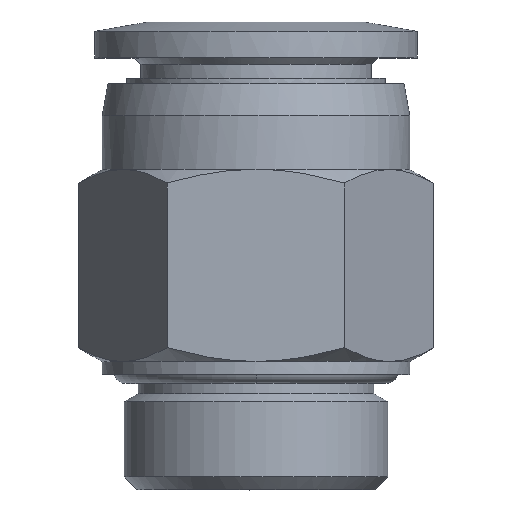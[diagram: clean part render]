
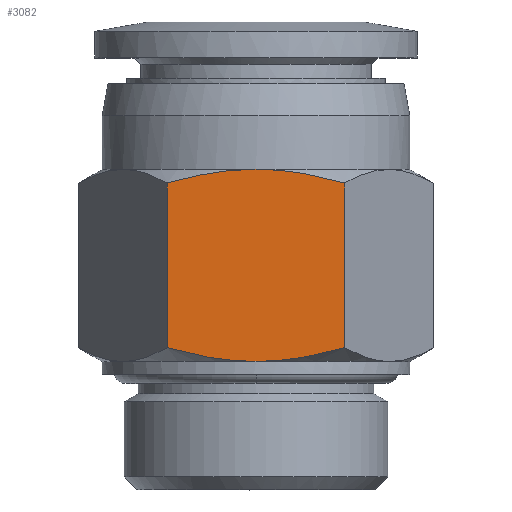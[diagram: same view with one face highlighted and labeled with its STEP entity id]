
A CAD part, top view. The second image highlights one B-rep face of the part: STEP entity #3082.
In plain terms, the highlighted planar face has unit normal (0, 0, 1).
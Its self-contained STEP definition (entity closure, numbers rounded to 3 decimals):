
#6 = CARTESIAN_POINT ( 'NONE',  ( 0., 25., 12. ) ) ;
#66 = VERTEX_POINT ( 'NONE', #169 ) ;
#79 = CARTESIAN_POINT ( 'NONE',  ( 4.514, 10.472, 12. ) ) ;
#161 = CARTESIAN_POINT ( 'NONE',  ( -6.928, 23.928, 12. ) ) ;
#169 = CARTESIAN_POINT ( 'NONE',  ( 6.928, 23.928, 12. ) ) ;
#182 = CARTESIAN_POINT ( 'NONE',  ( 6.928, 23.928, 12. ) ) ;
#183 = B_SPLINE_CURVE_WITH_KNOTS ( 'NONE', 3,
 ( #2916, #667, #2881, #1656, #2672, #423 ),
 .UNSPECIFIED., .F., .F.,
 ( 4, 2, 4 ),
 ( 0., 0.5, 1. ),
 .UNSPECIFIED. ) ;
#236 = DIRECTION ( 'NONE',  ( 0., 0., 1. ) ) ;
#244 = VERTEX_POINT ( 'NONE', #1111 ) ;
#307 = ORIENTED_EDGE ( 'NONE', *, *, #2454, .F. ) ;
#329 = EDGE_CURVE ( 'NONE', #66, #244, #3074, .T. ) ;
#394 = CARTESIAN_POINT ( 'NONE',  ( 5.668, 24.292, 12. ) ) ;
#423 = CARTESIAN_POINT ( 'NONE',  ( -6.928, 23.928, 12. ) ) ;
#425 = CARTESIAN_POINT ( 'NONE',  ( 1.092, 25., 12. ) ) ;
#480 = PLANE ( 'NONE',  #2341 ) ;
#601 = CARTESIAN_POINT ( 'NONE',  ( -6.928, 11.072, 12. ) ) ;
#637 = ORIENTED_EDGE ( 'NONE', *, *, #861, .T. ) ;
#661 = CARTESIAN_POINT ( 'NONE',  ( 0., 10., 12. ) ) ;
#667 = CARTESIAN_POINT ( 'NONE',  ( -1.092, 25., 12. ) ) ;
#693 = B_SPLINE_CURVE_WITH_KNOTS ( 'NONE', 3,
 ( #1038, #2048, #2028, #1054, #79, #2851, #1782, #1107, #2795, #811, #1556, #1073, #1800, #829, #1834, #1573 ),
 .UNSPECIFIED., .F., .F.,
 ( 4, 2, 2, 1, 1, 2, 2, 2, 4 ),
 ( 0., 0.25, 0.375, 0.438, 0.469, 0.484, 0.5, 0.75, 1. ),
 .UNSPECIFIED. ) ;
#753 = EDGE_CURVE ( 'NONE', #244, #2142, #183, .T. ) ;
#773 = ORIENTED_EDGE ( 'NONE', *, *, #2522, .T. ) ;
#806 = CARTESIAN_POINT ( 'NONE',  ( -5.668, 10.708, 12. ) ) ;
#811 = CARTESIAN_POINT ( 'NONE',  ( 3.411, 10.274, 12. ) ) ;
#828 = VERTEX_POINT ( 'NONE', #1602 ) ;
#829 = CARTESIAN_POINT ( 'NONE',  ( 1.105, 10.022, 12. ) ) ;
#861 = EDGE_CURVE ( 'NONE', #828, #1692, #2201, .T. ) ;
#966 = FACE_OUTER_BOUND ( 'NONE', #2344, .T. ) ;
#989 = CARTESIAN_POINT ( 'NONE',  ( 6.928, 19.643, 12. ) ) ;
#1038 = CARTESIAN_POINT ( 'NONE',  ( 6.928, 11.072, 12. ) ) ;
#1054 = CARTESIAN_POINT ( 'NONE',  ( 4.81, 10.534, 12. ) ) ;
#1073 = CARTESIAN_POINT ( 'NONE',  ( 2.774, 10.176, 12. ) ) ;
#1107 = CARTESIAN_POINT ( 'NONE',  ( 3.594, 10.304, 12. ) ) ;
#1111 = CARTESIAN_POINT ( 'NONE',  ( 0., 25., 12. ) ) ;
#1134 = CARTESIAN_POINT ( 'NONE',  ( -2.204, 10.088, 12. ) ) ;
#1138 = CARTESIAN_POINT ( 'NONE',  ( -6.928, 19.643, 12. ) ) ;
#1166 = VERTEX_POINT ( 'NONE', #2727 ) ;
#1190 = CARTESIAN_POINT ( 'NONE',  ( 6.928, 23.928, 12. ) ) ;
#1391 = B_SPLINE_CURVE_WITH_KNOTS ( 'NONE', 3,
 ( #161, #1138, #2670, #2131 ),
 .UNSPECIFIED., .F., .F.,
 ( 4, 4 ),
 ( 0., 1. ),
 .UNSPECIFIED. ) ;
#1401 = CARTESIAN_POINT ( 'NONE',  ( 0., 25., 12. ) ) ;
#1431 = CARTESIAN_POINT ( 'NONE',  ( 4.47, 24.562, 12. ) ) ;
#1503 = DIRECTION ( 'NONE',  ( 1., 0., 0. ) ) ;
#1556 = CARTESIAN_POINT ( 'NONE',  ( 3.373, 10.268, 12. ) ) ;
#1573 = CARTESIAN_POINT ( 'NONE',  ( 0., 10., 12. ) ) ;
#1602 = CARTESIAN_POINT ( 'NONE',  ( -6.928, 11.072, 12. ) ) ;
#1656 = CARTESIAN_POINT ( 'NONE',  ( -4.47, 24.562, 12. ) ) ;
#1692 = VERTEX_POINT ( 'NONE', #2009 ) ;
#1720 = CARTESIAN_POINT ( 'NONE',  ( 6.928, 15.357, 12. ) ) ;
#1782 = CARTESIAN_POINT ( 'NONE',  ( 3.851, 10.347, 12. ) ) ;
#1800 = CARTESIAN_POINT ( 'NONE',  ( 2.217, 10.11, 12. ) ) ;
#1834 = CARTESIAN_POINT ( 'NONE',  ( 0.554, 10., 12. ) ) ;
#2009 = CARTESIAN_POINT ( 'NONE',  ( 0., 10., 12. ) ) ;
#2028 = CARTESIAN_POINT ( 'NONE',  ( 5.704, 10.736, 12. ) ) ;
#2048 = CARTESIAN_POINT ( 'NONE',  ( 6.309, 10.893, 12. ) ) ;
#2056 = B_SPLINE_CURVE_WITH_KNOTS ( 'NONE', 3,
 ( #1190, #989, #1720, #2719 ),
 .UNSPECIFIED., .F., .F.,
 ( 4, 4 ),
 ( 0., 1. ),
 .UNSPECIFIED. ) ;
#2128 = CARTESIAN_POINT ( 'NONE',  ( -4.47, 10.438, 12. ) ) ;
#2131 = CARTESIAN_POINT ( 'NONE',  ( -6.928, 11.072, 12. ) ) ;
#2142 = VERTEX_POINT ( 'NONE', #2299 ) ;
#2201 = B_SPLINE_CURVE_WITH_KNOTS ( 'NONE', 3,
 ( #601, #806, #2128, #1134, #2427, #661 ),
 .UNSPECIFIED., .F., .F.,
 ( 4, 2, 4 ),
 ( 0., 0.5, 1. ),
 .UNSPECIFIED. ) ;
#2299 = CARTESIAN_POINT ( 'NONE',  ( -6.928, 23.928, 12. ) ) ;
#2313 = ORIENTED_EDGE ( 'NONE', *, *, #2780, .F. ) ;
#2326 = ORIENTED_EDGE ( 'NONE', *, *, #753, .T. ) ;
#2341 = AXIS2_PLACEMENT_3D ( 'NONE', #6, #236, #1503 ) ;
#2344 = EDGE_LOOP ( 'NONE', ( #307, #2313, #2534, #2326, #773, #637 ) ) ;
#2388 = CARTESIAN_POINT ( 'NONE',  ( 2.204, 24.912, 12. ) ) ;
#2427 = CARTESIAN_POINT ( 'NONE',  ( -1.092, 10., 12. ) ) ;
#2454 = EDGE_CURVE ( 'NONE', #1166, #1692, #693, .T. ) ;
#2522 = EDGE_CURVE ( 'NONE', #2142, #828, #1391, .T. ) ;
#2534 = ORIENTED_EDGE ( 'NONE', *, *, #329, .T. ) ;
#2670 = CARTESIAN_POINT ( 'NONE',  ( -6.928, 15.357, 12. ) ) ;
#2672 = CARTESIAN_POINT ( 'NONE',  ( -5.667, 24.292, 12. ) ) ;
#2719 = CARTESIAN_POINT ( 'NONE',  ( 6.928, 11.072, 12. ) ) ;
#2727 = CARTESIAN_POINT ( 'NONE',  ( 6.928, 11.072, 12. ) ) ;
#2780 = EDGE_CURVE ( 'NONE', #66, #1166, #2056, .T. ) ;
#2795 = CARTESIAN_POINT ( 'NONE',  ( 3.484, 10.286, 12. ) ) ;
#2851 = CARTESIAN_POINT ( 'NONE',  ( 4.072, 10.387, 12. ) ) ;
#2881 = CARTESIAN_POINT ( 'NONE',  ( -2.204, 24.912, 12. ) ) ;
#2916 = CARTESIAN_POINT ( 'NONE',  ( 0., 25., 12. ) ) ;
#3074 = B_SPLINE_CURVE_WITH_KNOTS ( 'NONE', 3,
 ( #182, #394, #1431, #2388, #425, #1401 ),
 .UNSPECIFIED., .F., .F.,
 ( 4, 2, 4 ),
 ( 0., 0.5, 1. ),
 .UNSPECIFIED. ) ;
#3082 = ADVANCED_FACE ( 'NONE', ( #966 ), #480, .T. ) ;
